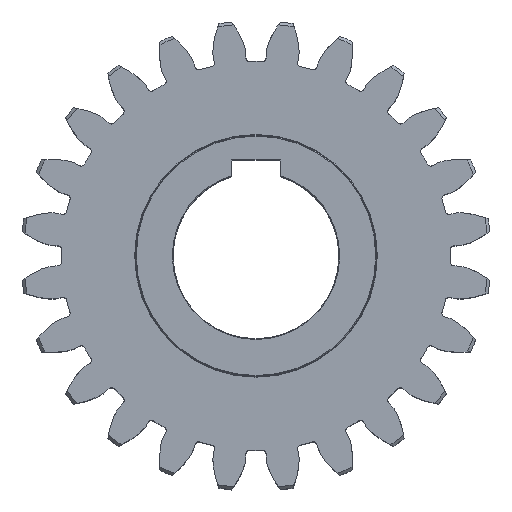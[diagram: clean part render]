
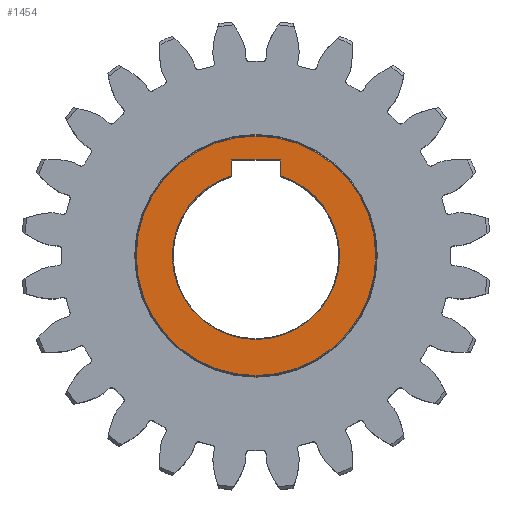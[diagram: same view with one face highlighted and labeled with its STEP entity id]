
A CAD part, top view. The second image highlights one B-rep face of the part: STEP entity #1454.
In plain terms, the highlighted planar face has unit normal (0, 0, 1).
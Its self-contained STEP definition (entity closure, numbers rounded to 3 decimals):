
#298 = CARTESIAN_POINT ( 'NONE',  ( 27.75, 0., 35. ) ) ;
#326 = DIRECTION ( 'NONE',  ( 0., 0., -1. ) ) ;
#412 = CARTESIAN_POINT ( 'NONE',  ( 8., 26.572, 35. ) ) ;
#942 = EDGE_CURVE ( 'NONE', #12861, #9209, #5188, .T. ) ;
#1246 = DIRECTION ( 'NONE',  ( 0., 1., 0. ) ) ;
#1248 = CARTESIAN_POINT ( 'NONE',  ( 0., 0., 35. ) ) ;
#1294 = ORIENTED_EDGE ( 'NONE', *, *, #13852, .T. ) ;
#1334 = CARTESIAN_POINT ( 'NONE',  ( 0., 0., 35. ) ) ;
#1381 = EDGE_LOOP ( 'NONE', ( #3960, #5127 ) ) ;
#1454 = ADVANCED_FACE ( 'NONE', ( #7066, #15900 ), #12155, .T. ) ;
#1649 = VERTEX_POINT ( 'NONE', #14809 ) ;
#1653 = VERTEX_POINT ( 'NONE', #4836 ) ;
#1659 = ORIENTED_EDGE ( 'NONE', *, *, #3124, .T. ) ;
#1745 = CARTESIAN_POINT ( 'NONE',  ( 0., 0., 35. ) ) ;
#2197 = AXIS2_PLACEMENT_3D ( 'NONE', #10063, #7551, #3487 ) ;
#3079 = CARTESIAN_POINT ( 'NONE',  ( 0., 0., 35. ) ) ;
#3104 = DIRECTION ( 'NONE',  ( 1., 0., 0. ) ) ;
#3124 = EDGE_CURVE ( 'NONE', #1649, #16443, #5023, .T. ) ;
#3487 = DIRECTION ( 'NONE',  ( 1., 0., 0. ) ) ;
#3960 = ORIENTED_EDGE ( 'NONE', *, *, #12836, .T. ) ;
#4674 = CARTESIAN_POINT ( 'NONE',  ( 39.75, 0., 35. ) ) ;
#4796 = LINE ( 'NONE', #5864, #6053 ) ;
#4836 = CARTESIAN_POINT ( 'NONE',  ( -39.75, 0., 35. ) ) ;
#5023 = LINE ( 'NONE', #9939, #11365 ) ;
#5026 = DIRECTION ( 'NONE',  ( 1., 0., 0. ) ) ;
#5127 = ORIENTED_EDGE ( 'NONE', *, *, #16309, .T. ) ;
#5188 = CIRCLE ( 'NONE', #8109, 27.75 ) ;
#5272 = CIRCLE ( 'NONE', #12973, 39.75 ) ;
#5533 = VECTOR ( 'NONE', #3104, 1000. ) ;
#5597 = CARTESIAN_POINT ( 'NONE',  ( 0., 0., 35. ) ) ;
#5797 = EDGE_CURVE ( 'NONE', #7541, #1649, #7614, .T. ) ;
#5864 = CARTESIAN_POINT ( 'NONE',  ( 8., 23.2, 35. ) ) ;
#6053 = VECTOR ( 'NONE', #11294, 1000. ) ;
#6588 = CIRCLE ( 'NONE', #11921, 27.75 ) ;
#6739 = ORIENTED_EDGE ( 'NONE', *, *, #5797, .T. ) ;
#6838 = DIRECTION ( 'NONE',  ( 1., 0., 0. ) ) ;
#6898 = DIRECTION ( 'NONE',  ( 0., 0., 1. ) ) ;
#7066 = FACE_OUTER_BOUND ( 'NONE', #1381, .T. ) ;
#7541 = VERTEX_POINT ( 'NONE', #12335 ) ;
#7551 = DIRECTION ( 'NONE',  ( 0., 0., 1. ) ) ;
#7614 = CIRCLE ( 'NONE', #13993, 27.75 ) ;
#7737 = ORIENTED_EDGE ( 'NONE', *, *, #942, .T. ) ;
#7763 = DIRECTION ( 'NONE',  ( 0., 0., 1. ) ) ;
#8070 = DIRECTION ( 'NONE',  ( 1., 0., 0. ) ) ;
#8109 = AXIS2_PLACEMENT_3D ( 'NONE', #1334, #15340, #12917 ) ;
#8180 = EDGE_LOOP ( 'NONE', ( #1294, #7737, #12207, #6739, #1659, #12961 ) ) ;
#9209 = VERTEX_POINT ( 'NONE', #298 ) ;
#9597 = CARTESIAN_POINT ( 'NONE',  ( 8., 31.8, 35. ) ) ;
#9675 = LINE ( 'NONE', #9597, #5533 ) ;
#9939 = CARTESIAN_POINT ( 'NONE',  ( -8., 23.2, 35. ) ) ;
#9956 = CARTESIAN_POINT ( 'NONE',  ( -8., 31.8, 35. ) ) ;
#10063 = CARTESIAN_POINT ( 'NONE',  ( 0., 0., 35. ) ) ;
#11294 = DIRECTION ( 'NONE',  ( 0., -1., 0. ) ) ;
#11365 = VECTOR ( 'NONE', #1246, 1000. ) ;
#11921 = AXIS2_PLACEMENT_3D ( 'NONE', #1745, #326, #6838 ) ;
#12155 = PLANE ( 'NONE',  #16058 ) ;
#12207 = ORIENTED_EDGE ( 'NONE', *, *, #12816, .T. ) ;
#12272 = VERTEX_POINT ( 'NONE', #4674 ) ;
#12322 = CIRCLE ( 'NONE', #2197, 39.75 ) ;
#12335 = CARTESIAN_POINT ( 'NONE',  ( -27.75, 0., 35. ) ) ;
#12816 = EDGE_CURVE ( 'NONE', #9209, #7541, #6588, .T. ) ;
#12836 = EDGE_CURVE ( 'NONE', #1653, #12272, #5272, .T. ) ;
#12861 = VERTEX_POINT ( 'NONE', #412 ) ;
#12917 = DIRECTION ( 'NONE',  ( 1., 0., 0. ) ) ;
#12961 = ORIENTED_EDGE ( 'NONE', *, *, #12969, .T. ) ;
#12969 = EDGE_CURVE ( 'NONE', #16443, #15032, #9675, .T. ) ;
#12973 = AXIS2_PLACEMENT_3D ( 'NONE', #5597, #7763, #14332 ) ;
#13852 = EDGE_CURVE ( 'NONE', #15032, #12861, #4796, .T. ) ;
#13993 = AXIS2_PLACEMENT_3D ( 'NONE', #1248, #13994, #5026 ) ;
#13994 = DIRECTION ( 'NONE',  ( 0., 0., -1. ) ) ;
#14288 = CARTESIAN_POINT ( 'NONE',  ( 8., 31.8, 35. ) ) ;
#14332 = DIRECTION ( 'NONE',  ( 1., 0., 0. ) ) ;
#14809 = CARTESIAN_POINT ( 'NONE',  ( -8., 26.572, 35. ) ) ;
#15032 = VERTEX_POINT ( 'NONE', #14288 ) ;
#15340 = DIRECTION ( 'NONE',  ( 0., 0., -1. ) ) ;
#15900 = FACE_BOUND ( 'NONE', #8180, .T. ) ;
#16058 = AXIS2_PLACEMENT_3D ( 'NONE', #3079, #6898, #8070 ) ;
#16309 = EDGE_CURVE ( 'NONE', #12272, #1653, #12322, .T. ) ;
#16443 = VERTEX_POINT ( 'NONE', #9956 ) ;
